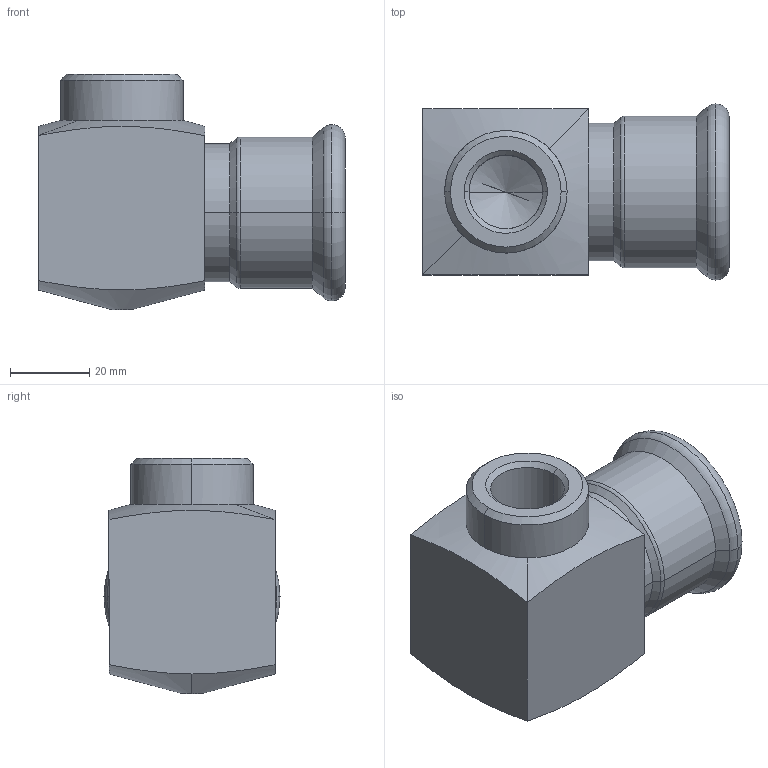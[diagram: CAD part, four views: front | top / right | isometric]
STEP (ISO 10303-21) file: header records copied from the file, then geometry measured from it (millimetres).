
FILE_DESCRIPTION(('CoCreate Modeling STEP Export'),'2;1');
FILE_NAME('C1409 35 Rp 1-2.stp','2014-11-07T16:50:37',(''),(''),'CoCreate Modeling STEP processor for AP214 (Solid Model)','CoCreate Modeling 17.00A 17-Jun-2010 (C) Parametric Technology GmbH','');
FILE_SCHEMA(('AUTOMOTIVE_DESIGN { 1 0 10303 214 1 1 1 1 }'));
Length unit declared in the file: millimetre
Products named in the file (1): C1409-35-rp-1-2
Bounding box: 77.5 x 44.55 x 59.5 mm (x, y, z)
Volume: 67344.8 mm3; surface area: 24110.7 mm2
Topology: 1 solids, 1 shells, 57 faces, 133 edges, 81 vertices
Faces by surface type: cylinder 22, cone 18, plane 9, torus 6, bspline 2
Entity records: 4109 total; most frequent: CARTESIAN_POINT 2965, ORIENTED_EDGE 262, DIRECTION 178, EDGE_CURVE 131, VERTEX_POINT 81, AXIS2_PLACEMENT_3D 68, EDGE_LOOP 64, FACE_OUTER_BOUND 57
